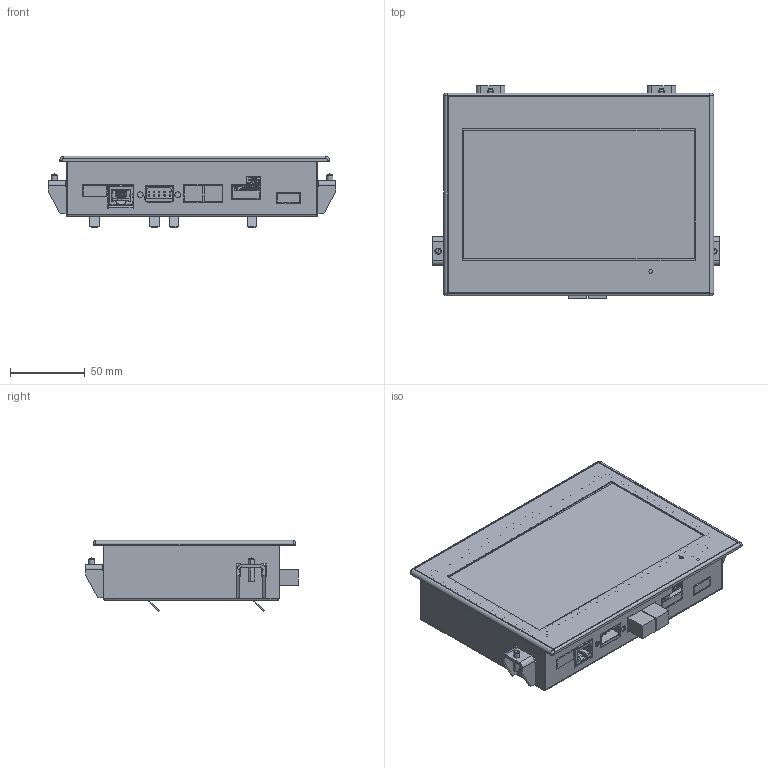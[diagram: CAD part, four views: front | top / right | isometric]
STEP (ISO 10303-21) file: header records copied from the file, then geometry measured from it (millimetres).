
FILE_DESCRIPTION (( 'STEP AP214' ), '1' );
FILE_NAME ('HZS 771 support.STEP', '2016-05-27T10:54:22', ( 'SIGMATEK GmbH & Co KG' ), ( 'SIGMATEK GmbH & Co KG' ), 'SwSTEP 2.0', 'SolidWorks 2015', '' );
FILE_SCHEMA (( 'AUTOMOTIVE_DESIGN' ));
Length unit declared in the file: millimetre
Products named in the file (16): Gehäuse HZS 771,HZS772 support_Neuer æSD-Kartenhalter; 7227771124_7  Inch Display HZS 2013_ohne Tail; Folie_V3.0 support; Front HZS 7 Zoll_V5.0; HZS 771 support; 112704a BG_HZS773-1; S2C_SMT_3.50_10_90G_3.2_SN_BK_RL 1359490000; 4080225241 MINI USB, B Type Receptacle conn. Right Angle Surface Mount Type 10033526-N3212LF; Dummy_PJS008-4100-0-VE-140717; 7517771034 Micro SD; 112704a Part_HZS773-1; Batteriedeckel; Befestigungselement Terminal (kürzerer Schenkel) für Kunststofffront; Gewindestift ISO 7466 - M4 x 16 - 14H - A2F; Befestigungselement Terminal 1fach (kürzerer Schenkel)
Assembly tree (19 placements, depth 4):
  HZS 771 support
    Front HZS 7 Zoll_V5.0
    Folie_V3.0 support
    7227771124_7  Inch Display HZS 2013_ohne Tail
    Gehäuse HZS 771,HZS772 support_Neuer æSD-Kartenhalter
    Befestigungselement Terminal (kürzerer Schenkel) für Kunststofffront  x4
      Befestigungselement Terminal 1fach (kürzerer Schenkel)
      Gewindestift ISO 7466 - M4 x 16 - 14H - A2F
    Batteriedeckel  x2
    112704a BG_HZS773-1
      112704a Part_HZS773-1
      Dummy_PJS008-4100-0-VE-140717
        Dummy_PJS008-4100-0-VE-140717
        7517771034 Micro SD
      4080225241 MINI USB, B Type Receptacle conn. Right Angle Surface Mount Type 10033526-N3212LF
      S2C_SMT_3.50_10_90G_3.2_SN_BK_RL 1359490000
Bounding box: 192 x 141.9 x 47.62 mm (x, y, z)
Volume: 225055.8 mm3; surface area: 210518.5 mm2
Topology: 60 solids, 65 shells, 4045 faces, 11056 edges, 7152 vertices
Faces by surface type: plane 2754, cylinder 997, bspline 202, cone 67, torus 17, sphere 8
Full cylindrical faces by diameter (mm): 0.9 x1
Entity records: 149625 total; most frequent: CARTESIAN_POINT 31764, ORIENTED_EDGE 20978, DIRECTION 19025, EDGE_CURVE 10494, LINE 7911, VECTOR 7911, VERTEX_POINT 6804, AXIS2_PLACEMENT_3D 5557
